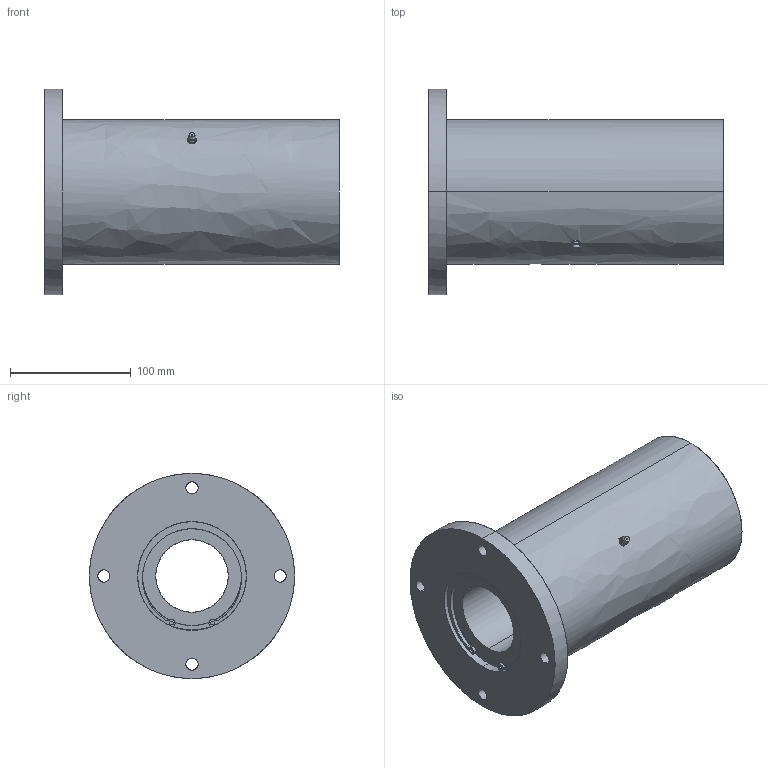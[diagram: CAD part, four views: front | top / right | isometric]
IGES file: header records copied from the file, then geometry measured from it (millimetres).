
Global section: file name: No Iges File Name specified; native system: AutoDesk Inventor R10; preprocessor: AutoDesk Inventor Iges Exporter R10; author: No Author specified; organization: No Organization specified; date: 20101214.142237; units: millimetre
Bounding box: 244 x 170 x 170 mm (x, y, z)
Surface area: 205546.1 mm2 (no closed solid volume)
Topology: 0 solids, 0 shells, 147 faces, 995 edges, 993 vertices
Faces by surface type: bspline 147
